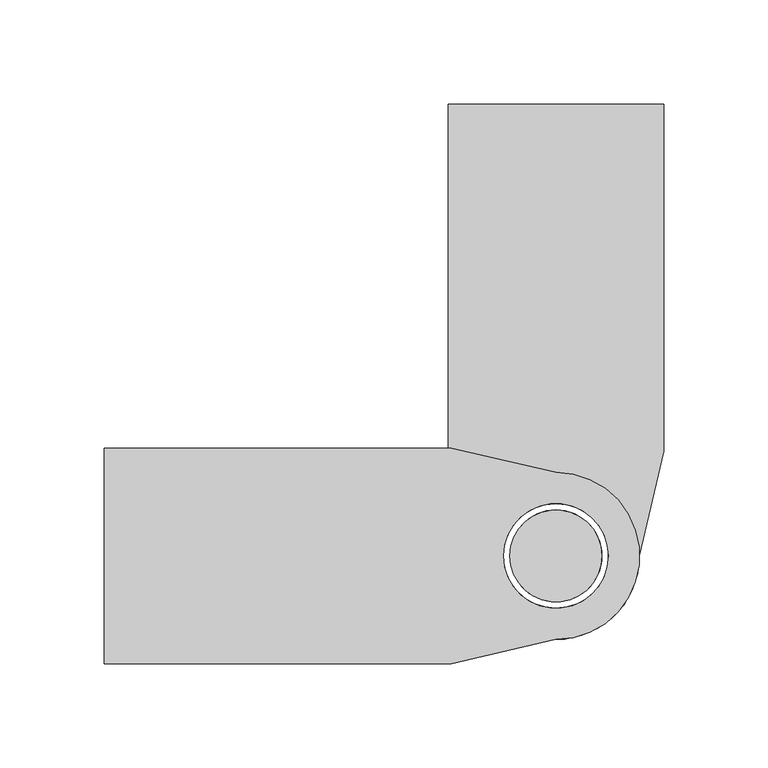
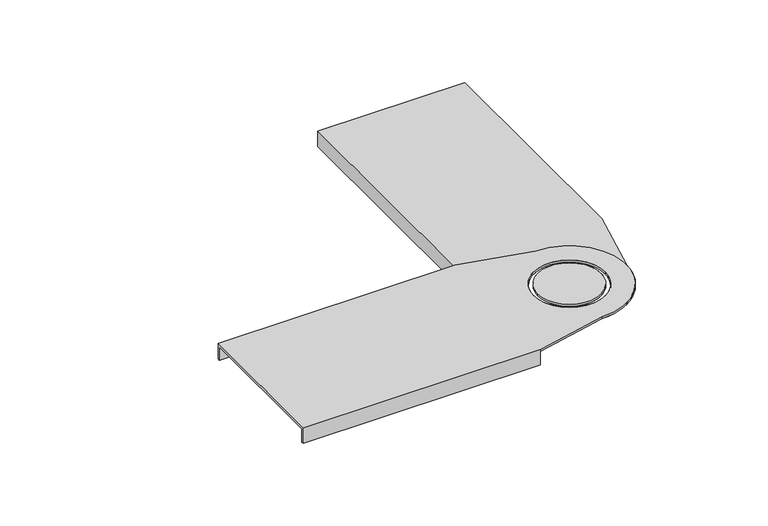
"""IFC4 building model written with IfcOpenShell, lengths in millimetres: cable carrier fitting geometry, BAKS_LDLS_BEND_Articulated connector_LGSU : LGSUP_H100."""

from ifc_helpers import new_model, si_unit, frame, origin, place, context, project, spatial, polyline, circle_curve, source, transform, mapped, element, save
from ifc_brep_helpers import plane_surface, cylinder_surface, revolved_surface, advanced_brep


def cable_carrier_fitting_babf011b(model_context):
    return source(origin(), model_context, "Body", "AdvancedBrep", [
        advanced_brep(
        [(-216.0, 51.5, 1.5), (-216.0, -51.5, 1.5), (-50.0, -51.5, 1.5), (0.0, -40.0, 1.5), (0.0, 40.0, 1.5), (-50.0, 51.5, 1.5), (25.0, 0.0, 1.5), (-25.0, 0.0, 1.5), (-50.0, -51.5, 0.0), (-50.0, -50.0, 0.0), (-216.0, -50.0, 0.0), (-216.0, 50.0, 0.0), (-50.0, 50.0, 0.0), (-50.0, 51.5, 0.0), (0.0, 40.0, 0.0), (0.0, -40.0, 0.0), (-25.0, 0.0, 0.0), (25.0, 0.0, 0.0), (-50.0, 51.5, -10.0), (-216.0, 51.5, -10.0), (-216.0, -51.5, -10.0), (-50.0, -51.5, -10.0), (-216.0, 50.0, -10.0), (-216.0, -50.0, -10.0), (-50.0, -50.0, -10.0), (-50.0, 50.0, -10.0)],
        [
            (0, 1),
            (1, 2),
            (2, 3),
            (3, 4, circle_curve(frame((0.0, 0.0, 1.5), z_axis=(0.0, 0.0, 1.0), x_axis=(-1.0, 0.0, 0.0)), 40.0)),
            (4, 5),
            (5, 0),
            (6, 7, circle_curve(frame((0.0, 0.0, 1.5), z_axis=(0.0, 0.0, -1.0), x_axis=(-1.0, 0.0, 0.0)), 25.0)),
            (7, 6, circle_curve(frame((0.0, 0.0, 1.5), z_axis=(0.0, 0.0, -1.0), x_axis=(-1.0, 0.0, 0.0)), 25.0)),
            (8, 9),
            (9, 10),
            (10, 11),
            (11, 12),
            (12, 13),
            (13, 14),
            (14, 15, circle_curve(frame((0.0, 0.0, 0.0), z_axis=(0.0, 0.0, -1.0), x_axis=(-1.0, 0.0, 0.0)), 40.0)),
            (15, 8),
            (16, 17, circle_curve(frame((0.0, 0.0, 0.0), z_axis=(0.0, 0.0, 1.0), x_axis=(-1.0, 0.0, 0.0)), 25.0)),
            (17, 16, circle_curve(frame((0.0, 0.0, 0.0), z_axis=(0.0, 0.0, 1.0), x_axis=(-1.0, 0.0, 0.0)), 25.0)),
            (5, 13),
            (13, 18),
            (18, 19),
            (19, 0),
            (1, 20),
            (20, 21),
            (21, 8),
            (8, 2),
            (19, 22),
            (22, 11),
            (10, 23),
            (23, 20),
            (7, 16),
            (17, 6),
            (4, 14),
            (3, 15),
            (23, 24),
            (24, 21),
            (9, 24),
            (18, 25),
            (25, 22),
            (12, 25),
        ],
        [
            plane_surface(frame((-50.0, 51.5, 1.5), z_axis=(0.0, 0.0, 1.0), x_axis=(1.0, 0.0, 0.0))),
            plane_surface(frame((-50.0, 51.5, 0.0), z_axis=(0.0, 0.0, -1.0), x_axis=(-1.0, 0.0, 0.0))),
            plane_surface(frame((-216.0, 51.5, 1.5), z_axis=(0.0, 1.0, 0.0), x_axis=(0.0, 0.0, -1.0))),
            plane_surface(frame((-50.0, -51.5, 1.5), z_axis=(0.0, -1.0, 0.0), x_axis=(0.0, 0.0, -1.0))),
            plane_surface(frame((-216.0, -51.5, 1.5), z_axis=(-1.0, 0.0, 0.0), x_axis=(0.0, 0.0, -1.0))),
            revolved_surface(polyline([(-25.0, 0.0, 1.5), (-25.0, 0.0, 0.0)]), (0.0, 0.0, 0.0), (0.0, 0.0, 1.0)),
            plane_surface(frame((-50.0, 51.5, 1.5), z_axis=(0.22414769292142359, 0.9745551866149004, 0.0), x_axis=(0.0, 0.0, -1.0))),
            cylinder_surface(frame((0.0, 0.0, 0.0), z_axis=(0.0, 0.0, 1.0), x_axis=(-1.0, 0.0, 0.0)), 40.0),
            plane_surface(frame((0.0, -40.0, 1.5), z_axis=(0.2241476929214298, -0.9745551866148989, 0.0), x_axis=(0.0, 0.0, -1.0))),
            plane_surface(frame((-50.0, -50.0, -10.0), z_axis=(0.0, 0.0, -1.0), x_axis=(-1.0, 0.0, 0.0))),
            plane_surface(frame((-216.0, -50.0, 0.0), z_axis=(0.0, 1.0, 0.0), x_axis=(0.0, 0.0, -1.0))),
            plane_surface(frame((-50.0, -50.0, 0.0), z_axis=(1.0, 0.0, 0.0), x_axis=(0.0, 0.0, -1.0))),
            plane_surface(frame((-50.0, 51.5, -10.0), z_axis=(0.0, 0.0, -1.0), x_axis=(-1.0, 0.0, 0.0))),
            plane_surface(frame((-50.0, 51.5, 0.0), z_axis=(1.0, 0.0, 0.0), x_axis=(0.0, 0.0, -1.0))),
            plane_surface(frame((-50.0, 50.0, 0.0), z_axis=(0.0, -1.0, 0.0), x_axis=(0.0, 0.0, -1.0))),
        ],
        [
            (0, [[1, 2, 3, 4, 5, 6], [7, 8]]),
            (1, [[9, 10, 11, 12, 13, 14, 15, 16], [17, 18]]),
            (2, [[19, 20, 21, 22, -6]]),
            (3, [[23, 24, 25, 26, -2]]),
            (4, [[27, 28, -11, 29, 30, -23, -1, -22]]),
            (5, [[-8, 31, -18, 32]]),
            (5, [[-17, -31, -7, -32]]),
            (6, [[33, -14, -19, -5]]),
            (7, [[34, -15, -33, -4]]),
            (8, [[-26, -16, -34, -3]]),
            (9, [[35, 36, -24, -30]]),
            (10, [[-29, -10, 37, -35]]),
            (11, [[-37, -9, -25, -36]]),
            (12, [[-21, 38, 39, -27]]),
            (13, [[-20, -13, 40, -38]]),
            (14, [[-40, -12, -28, -39]]),
        ],
    ),
        advanced_brep(
        [(22.0, 0.0, 1.5), (-22.0, 0.0, 1.5), (-22.0, 0.0, 0.0), (22.0, 0.0, 0.0)],
        [
            (0, 1, circle_curve(frame((0.0, 0.0, 1.5), z_axis=(0.0, 0.0, 1.0), x_axis=(-1.0, 0.0, 0.0)), 22.0)),
            (1, 0, circle_curve(frame((0.0, 0.0, 1.5), z_axis=(0.0, 0.0, 1.0), x_axis=(-1.0, 0.0, 0.0)), 22.0)),
            (2, 3, circle_curve(frame((0.0, 0.0, 0.0), z_axis=(0.0, 0.0, -1.0), x_axis=(-1.0, 0.0, 0.0)), 22.0)),
            (3, 2, circle_curve(frame((0.0, 0.0, 0.0), z_axis=(0.0, 0.0, -1.0), x_axis=(-1.0, 0.0, 0.0)), 22.0)),
            (1, 2),
            (3, 0),
        ],
        [
            plane_surface(frame((-50.0, 51.5, 1.5), z_axis=(0.0, 0.0, 1.0), x_axis=(1.0, 0.0, 0.0))),
            plane_surface(frame((-50.0, 51.5, 0.0), z_axis=(0.0, 0.0, -1.0), x_axis=(-1.0, 0.0, 0.0))),
            cylinder_surface(frame((0.0, 0.0, 0.0), z_axis=(0.0, 0.0, -1.0), x_axis=(-1.0, 0.0, 0.0)), 22.0),
        ],
        [
            (0, [[1, 2]]),
            (1, [[3, 4]]),
            (2, [[-2, 5, -4, 6]]),
            (2, [[-3, -5, -1, -6]]),
        ],
    ),
        advanced_brep(
        [(-51.5, 216.0, 1.5), (-51.5, 50.0, 1.5), (-40.0, 0.0, 1.5), (40.0, 0.0, 1.5), (51.5, 50.0, 1.5), (51.5, 216.0, 1.5), (0.0, -25.0, 1.5), (0.0, 25.0, 1.5), (51.5, 50.0, 0.0), (40.0, 0.0, 0.0), (-40.0, 0.0, 0.0), (-51.5, 50.0, 0.0), (-50.0, 50.0, 0.0), (-50.0, 216.0, 0.0), (50.0, 216.0, 0.0), (50.0, 50.0, 0.0), (0.0, 25.0, 0.0), (0.0, -25.0, 0.0), (-51.5, 216.0, -10.0), (-51.5, 50.0, -10.0), (51.5, 50.0, -10.0), (51.5, 216.0, -10.0), (50.0, 216.0, -10.0), (-50.0, 216.0, -10.0), (50.0, 50.0, -10.0), (-50.0, 50.0, -10.0)],
        [
            (0, 1),
            (1, 2),
            (2, 3, circle_curve(frame((0.0, 0.0, 1.5), z_axis=(0.0, 0.0, 1.0), x_axis=(0.0, 1.0, 0.0)), 40.0)),
            (3, 4),
            (4, 5),
            (5, 0),
            (6, 7, circle_curve(frame((0.0, 0.0, 1.5), z_axis=(0.0, 0.0, -1.0), x_axis=(0.0, 1.0, 0.0)), 25.0)),
            (7, 6, circle_curve(frame((0.0, 0.0, 1.5), z_axis=(0.0, 0.0, -1.0), x_axis=(0.0, 1.0, 0.0)), 25.0)),
            (8, 9),
            (9, 10, circle_curve(frame((0.0, 0.0, 0.0), z_axis=(0.0, 0.0, -1.0), x_axis=(0.0, 1.0, 0.0)), 40.0)),
            (10, 11),
            (11, 12),
            (12, 13),
            (13, 14),
            (14, 15),
            (15, 8),
            (16, 17, circle_curve(frame((0.0, 0.0, 0.0), z_axis=(0.0, 0.0, 1.0), x_axis=(0.0, 1.0, 0.0)), 25.0)),
            (17, 16, circle_curve(frame((0.0, 0.0, 0.0), z_axis=(0.0, 0.0, 1.0), x_axis=(0.0, 1.0, 0.0)), 25.0)),
            (0, 18),
            (18, 19),
            (19, 11),
            (11, 1),
            (4, 8),
            (8, 20),
            (20, 21),
            (21, 5),
            (21, 22),
            (22, 14),
            (13, 23),
            (23, 18),
            (6, 17),
            (16, 7),
            (10, 2),
            (9, 3),
            (20, 24),
            (24, 22),
            (24, 15),
            (23, 25),
            (25, 19),
            (25, 12),
        ],
        [
            plane_surface(frame((-51.5, 50.0, 1.5), z_axis=(0.0, 0.0, 1.0), x_axis=(0.0, -1.0, 0.0))),
            plane_surface(frame((-51.5, 50.0, 0.0), z_axis=(0.0, 0.0, -1.0), x_axis=(0.0, 1.0, 0.0))),
            plane_surface(frame((-51.5, 216.0, 1.5), z_axis=(-1.0, 0.0, 0.0), x_axis=(0.0, 0.0, -1.0))),
            plane_surface(frame((51.5, 50.0, 1.5), z_axis=(1.0, 0.0, 0.0), x_axis=(0.0, 0.0, -1.0))),
            plane_surface(frame((51.5, 216.0, 1.5), z_axis=(0.0, 1.0, 0.0), x_axis=(0.0, 0.0, -1.0))),
            revolved_surface(polyline([(0.0, 25.0, 1.5), (0.0, 25.0, 0.0)]), (0.0, 0.0, 0.0), (0.0, 0.0, 1.0)),
            plane_surface(frame((-51.5, 50.0, 1.5), z_axis=(-0.9745551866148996, -0.2241476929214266, 0.0), x_axis=(0.0, 0.0, -1.0))),
            cylinder_surface(frame((0.0, 0.0, 0.0), z_axis=(0.0, 0.0, 1.0), x_axis=(0.0, 1.0, 0.0)), 40.0),
            plane_surface(frame((40.0, 0.0, 1.5), z_axis=(0.9745551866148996, -0.22414769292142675, 0.0), x_axis=(0.0, 0.0, -1.0))),
            plane_surface(frame((50.0, 50.0, -10.0), z_axis=(0.0, 0.0, -1.0), x_axis=(0.0, 1.0, 0.0))),
            plane_surface(frame((50.0, 216.0, 0.0), z_axis=(-1.0, 0.0, 0.0), x_axis=(0.0, 0.0, -1.0))),
            plane_surface(frame((50.0, 50.0, 0.0), z_axis=(0.0, -1.0, 0.0), x_axis=(0.0, 0.0, -1.0))),
            plane_surface(frame((-51.5, 50.0, -10.0), z_axis=(0.0, 0.0, -1.0), x_axis=(0.0, 1.0, 0.0))),
            plane_surface(frame((-51.5, 50.0, 0.0), z_axis=(0.0, -1.0, 0.0), x_axis=(0.0, 0.0, -1.0))),
            plane_surface(frame((-50.0, 50.0, 0.0), z_axis=(1.0, 0.0, 0.0), x_axis=(0.0, 0.0, -1.0))),
        ],
        [
            (0, [[1, 2, 3, 4, 5, 6], [7, 8]]),
            (1, [[9, 10, 11, 12, 13, 14, 15, 16], [17, 18]]),
            (2, [[-1, 19, 20, 21, 22]]),
            (3, [[-5, 23, 24, 25, 26]]),
            (4, [[-19, -6, -26, 27, 28, -14, 29, 30]]),
            (5, [[31, -17, 32, -7]]),
            (5, [[-31, -8, -32, -18]]),
            (6, [[-2, -22, -11, 33]]),
            (7, [[-3, -33, -10, 34]]),
            (8, [[-4, -34, -9, -23]]),
            (9, [[-27, -25, 35, 36]]),
            (10, [[-36, 37, -15, -28]]),
            (11, [[-35, -24, -16, -37]]),
            (12, [[-30, 38, 39, -20]]),
            (13, [[-39, 40, -12, -21]]),
            (14, [[-38, -29, -13, -40]]),
        ],
    ),
        advanced_brep(
        [(0.0, -22.0, 1.5), (0.0, 22.0, 1.5), (0.0, 22.0, 0.0), (0.0, -22.0, 0.0)],
        [
            (0, 1, circle_curve(frame((0.0, 0.0, 1.5), z_axis=(0.0, 0.0, 1.0), x_axis=(0.0, 1.0, 0.0)), 22.0)),
            (1, 0, circle_curve(frame((0.0, 0.0, 1.5), z_axis=(0.0, 0.0, 1.0), x_axis=(0.0, 1.0, 0.0)), 22.0)),
            (2, 3, circle_curve(frame((0.0, 0.0, 0.0), z_axis=(0.0, 0.0, -1.0), x_axis=(0.0, 1.0, 0.0)), 22.0)),
            (3, 2, circle_curve(frame((0.0, 0.0, 0.0), z_axis=(0.0, 0.0, -1.0), x_axis=(0.0, 1.0, 0.0)), 22.0)),
            (0, 3),
            (2, 1),
        ],
        [
            plane_surface(frame((-51.5, 50.0, 1.5), z_axis=(0.0, 0.0, 1.0), x_axis=(0.0, -1.0, 0.0))),
            plane_surface(frame((-51.5, 50.0, 0.0), z_axis=(0.0, 0.0, -1.0), x_axis=(0.0, 1.0, 0.0))),
            cylinder_surface(frame((0.0, 0.0, 0.0), z_axis=(0.0, 0.0, -1.0), x_axis=(0.0, 1.0, 0.0)), 22.0),
        ],
        [
            (0, [[1, 2]]),
            (1, [[3, 4]]),
            (2, [[5, -3, 6, -1]]),
            (2, [[-5, -2, -6, -4]]),
        ],
    ),
    ])


if __name__ == "__main__":
    model = new_model("IFC4")
    model_context = context("Model", 3, world=origin())
    ifc_project = project(units=[si_unit("LENGTHUNIT", "METRE", prefix="MILLI")], contexts=[model_context])
    site = spatial("IfcSite", under=ifc_project)
    building = spatial("IfcBuilding", under=site)
    placement = place(None, origin())
    cable_carrier_fitting_shape = cable_carrier_fitting_babf011b(model_context)
    element("IfcCableCarrierFitting", 1, ObjectType="BAKS_LDLS_BEND_Articulated connector_LGSU : LGSUP_H100", at=placement, inside=building, context=model_context, shape_type="MappedRepresentation", body=[
        mapped(cable_carrier_fitting_shape, transform((0.0, 0.0, 0.0), x_axis=(1.0, 0.0, 0.0), y_axis=(0.0, 1.0, 0.0), z_axis=(0.0, 0.0, 1.0))),
    ])
    save(model, "model.ifc")
